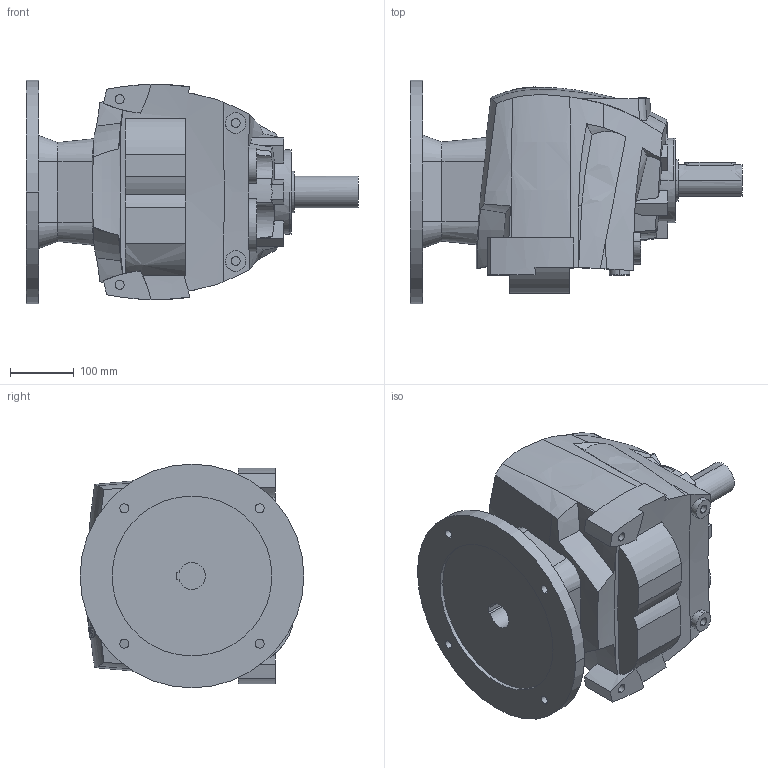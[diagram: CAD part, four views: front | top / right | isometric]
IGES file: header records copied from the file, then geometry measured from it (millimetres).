
Start section:  PTC IGES file: r50_unv_pam160.igs
Global section: file name: r50_unv_pam160.igs; native system: Pro/ENGINEER by Parametric Technology Corporation; preprocessor: 2008230; author: Luca; organization: Unknown; date: 20131218.144617; units: millimetre
Bounding box: 519.5 x 350 x 350 mm (x, y, z)
Volume: 24745525.4 mm3; surface area: 742319.8 mm2
Topology: 1 solids, 1 shells, 397 faces, 1085 edges, 725 vertices
Faces by surface type: bspline 253, revolution 144
